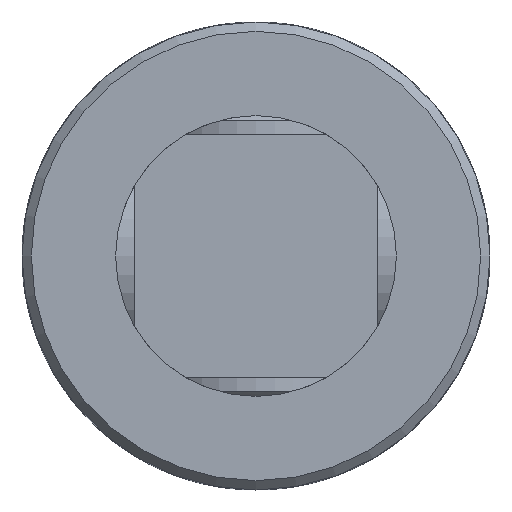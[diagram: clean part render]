
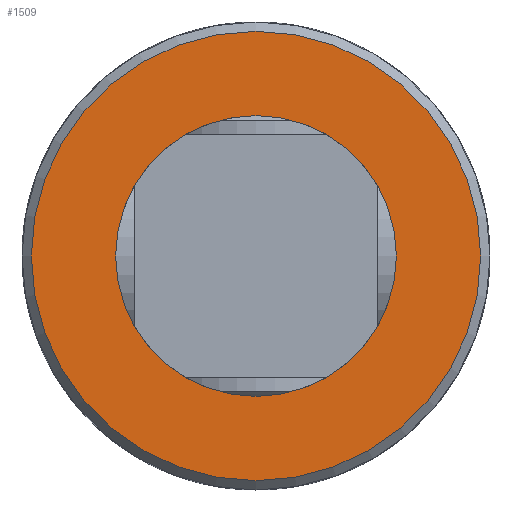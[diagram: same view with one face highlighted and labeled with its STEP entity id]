
A CAD part, front view. The second image highlights one B-rep face of the part: STEP entity #1509.
In plain terms, the highlighted planar face has unit normal (0, -1, 0).
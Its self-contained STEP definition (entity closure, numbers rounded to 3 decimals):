
#203=PLANE('',#1666);
#340=FACE_BOUND('',#551,.T.);
#419=FACE_OUTER_BOUND('',#550,.T.);
#550=EDGE_LOOP('',(#1324));
#551=EDGE_LOOP('',(#1325));
#628=CIRCLE('',#1653,15.);
#635=CIRCLE('',#1664,24.);
#762=VERTEX_POINT('',#3021);
#768=VERTEX_POINT('',#3062);
#950=EDGE_CURVE('',#762,#762,#628,.T.);
#959=EDGE_CURVE('',#768,#768,#635,.T.);
#1324=ORIENTED_EDGE('',*,*,#959,.F.);
#1325=ORIENTED_EDGE('',*,*,#950,.T.);
#1509=ADVANCED_FACE('',(#419,#340),#203,.F.);
#1653=AXIS2_PLACEMENT_3D('',#3022,#1983,#1984);
#1664=AXIS2_PLACEMENT_3D('',#3063,#2005,#2006);
#1666=AXIS2_PLACEMENT_3D('',#3271,#2013,#2014);
#1983=DIRECTION('center_axis',(0.,1.,0.));
#1984=DIRECTION('ref_axis',(-1.,0.,0.));
#2005=DIRECTION('center_axis',(0.,1.,0.));
#2006=DIRECTION('ref_axis',(1.,0.,0.));
#2013=DIRECTION('center_axis',(0.,1.,0.));
#2014=DIRECTION('ref_axis',(0.,0.,1.));
#3021=CARTESIAN_POINT('',(15.,-78.5,0.));
#3022=CARTESIAN_POINT('Origin',(0.,-78.5,0.));
#3062=CARTESIAN_POINT('',(-24.,-78.5,0.));
#3063=CARTESIAN_POINT('Origin',(0.,-78.5,0.));
#3271=CARTESIAN_POINT('Origin',(0.,-78.5,0.));
